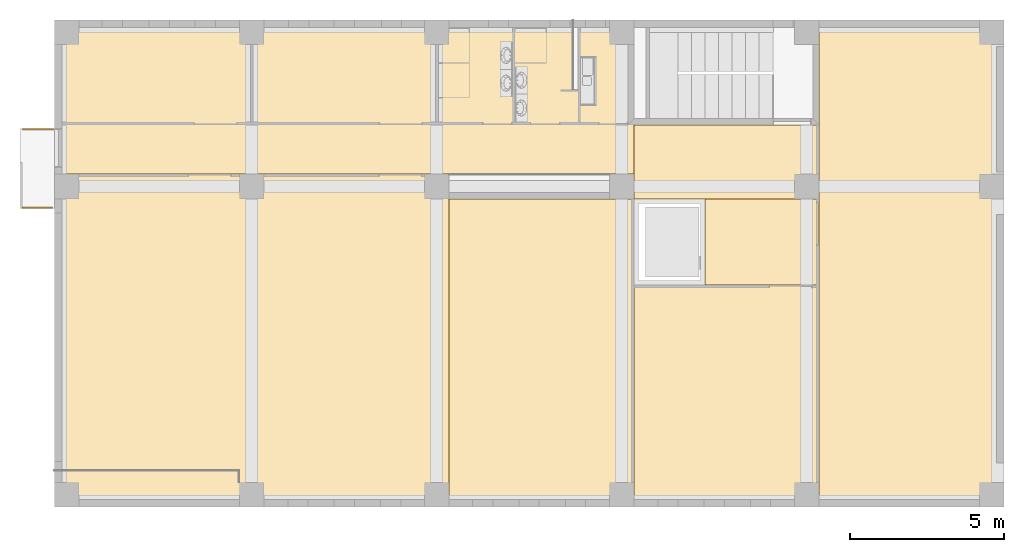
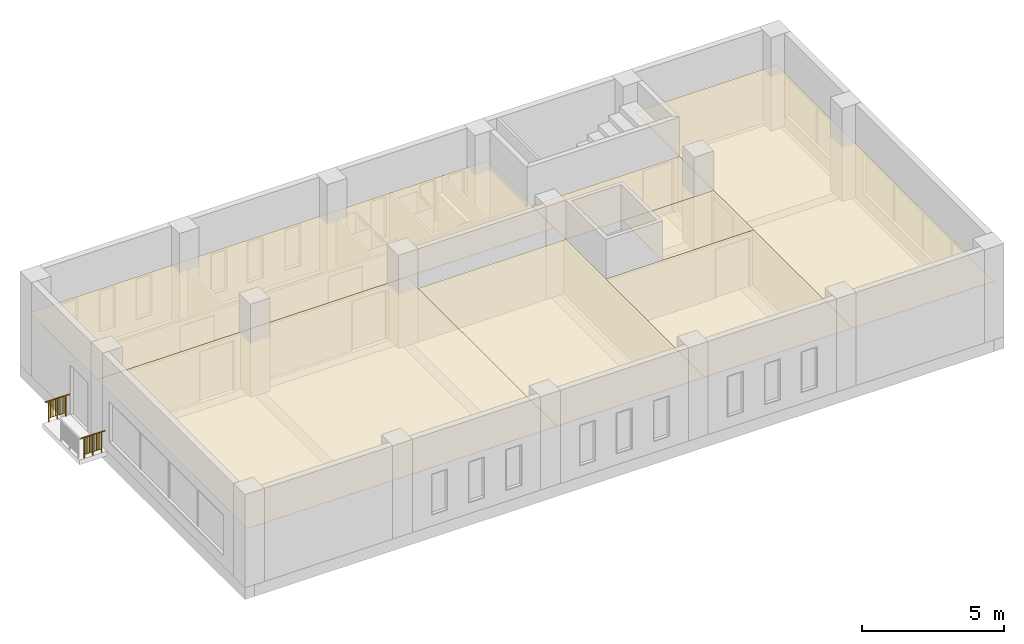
# One storey, part 6 of 14: 7 coverings, 2 railings.
"""IFC2X3 building model written with IfcOpenShell, lengths in millimetres."""

from ifc_helpers import new_model, entity, si_unit, converted_unit, direction, frame, origin_with_axes, place, context, project, spatial, polyline, outline, extrude, faceted_brep, source, transform, mapped, material, element, save


model = new_model("IFC2X3")

# Units and contexts
model_context = context("Model", 3, precision=1e-05, world=origin_with_axes(), true_north=direction((0.0, 1.0)))
ifc_project = project(units=[si_unit("LENGTHUNIT", "METRE", prefix="MILLI"), si_unit("AREAUNIT", "SQUARE_METRE"), si_unit("VOLUMEUNIT", "CUBIC_METRE"), converted_unit("PLANEANGLEUNIT", "DEGREE", entity("IfcPlaneAngleMeasure", 0.017453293), si_unit("PLANEANGLEUNIT", "RADIAN"), dimensions=[0, 0, 0, 0, 0, 0, 0]), si_unit("SOLIDANGLEUNIT", "STERADIAN"), si_unit("MASSUNIT", "GRAM"), si_unit("TIMEUNIT", "SECOND"), si_unit("THERMODYNAMICTEMPERATUREUNIT", "DEGREE_CELSIUS"), si_unit("LUMINOUSINTENSITYUNIT", "LUMEN")], contexts=[model_context])

# Site, building, storey
site_placement = place(None, origin_with_axes())
site = spatial("IfcSite", under=ifc_project, at=site_placement, Name="\x83T\x83C\x83g", CompositionType="ELEMENT")
building_placement = place(site_placement, origin_with_axes())
building = spatial("IfcBuilding", under=site, at=building_placement, Name="Daitec-Sample 201208", CompositionType="ELEMENT")
storey_placement = place(building_placement, frame((0.0, 0.0, 8000.0), z_axis=(0.0, 0.0, 1.0), x_axis=(1.0, 0.0, 0.0)))
storey = spatial("IfcBuildingStorey", under=building, at=storey_placement, Name="3F", CompositionType="ELEMENT", Elevation=8000.0)

# Railings
ifc_material_1 = material(Name="\x94w\x8ci")
shared_shape = source(origin_with_axes(), model_context, "Body", "Brep", [
    faceted_brep([(0.0, 25.0, 875.0), (0.0, -25.0, 875.0), (0.0, -25.0, 900.0), (0.0, 25.0, 900.0), (1000.0, 25.0, 875.0), (1000.0, -25.0, 875.0), (1000.0, -25.0, 900.0), (1000.0, 25.0, 900.0)], [[[0, 1, 2, 3]], [[0, 4, 5, 1]], [[1, 5, 6, 2]], [[3, 2, 6, 7]], [[4, 0, 3, 7]], [[5, 4, 7, 6]]]),
    faceted_brep([(132.5, -17.5, 0.0), (167.5, -17.5, 0.0), (167.5, -17.5, 875.0), (132.5, -17.5, 875.0), (132.5, 17.5, 0.0), (167.5, 17.5, 0.0), (167.5, 17.5, 875.0), (132.5, 17.5, 875.0)], [[[0, 1, 2, 3]], [[0, 4, 5, 1]], [[1, 5, 6, 2]], [[3, 2, 6, 7]], [[4, 0, 3, 7]], [[5, 4, 7, 6]]]),
    faceted_brep([(482.5, -17.5, 0.0), (517.5, -17.5, 0.0), (517.5, -17.5, 875.0), (482.5, -17.5, 875.0), (482.5, 17.5, 0.0), (517.5, 17.5, 0.0), (517.5, 17.5, 875.0), (482.5, 17.5, 875.0)], [[[0, 1, 2, 3]], [[0, 4, 5, 1]], [[1, 5, 6, 2]], [[3, 2, 6, 7]], [[4, 0, 3, 7]], [[5, 4, 7, 6]]]),
    faceted_brep([(832.5, -17.5, 0.0), (867.5, -17.5, 0.0), (867.5, -17.5, 875.0), (832.5, -17.5, 875.0), (832.5, 17.5, 0.0), (867.5, 17.5, 0.0), (867.5, 17.5, 875.0), (832.5, 17.5, 875.0)], [[[0, 1, 2, 3]], [[0, 4, 5, 1]], [[1, 5, 6, 2]], [[3, 2, 6, 7]], [[4, 0, 3, 7]], [[5, 4, 7, 6]]]),
    faceted_brep([(482.5, -10.0, 170.0), (482.5, 10.0, 170.0), (167.5, 10.0, 170.0), (167.5, -10.0, 170.0), (482.5, 10.0, 150.0), (482.5, -10.0, 150.0), (167.5, 10.0, 150.0), (167.5, -10.0, 150.0)], [[[0, 1, 2, 3]], [[4, 1, 0, 5]], [[1, 4, 6, 2]], [[7, 3, 2, 6]], [[5, 0, 3, 7]], [[4, 5, 7, 6]]]),
    faceted_brep([(832.5, -10.0, 170.0), (832.5, 10.0, 170.0), (517.5, 10.0, 170.0), (517.5, -10.0, 170.0), (832.5, 10.0, 150.0), (832.5, -10.0, 150.0), (517.5, 10.0, 150.0), (517.5, -10.0, 150.0)], [[[0, 1, 2, 3]], [[4, 1, 0, 5]], [[1, 4, 6, 2]], [[7, 3, 2, 6]], [[5, 0, 3, 7]], [[4, 5, 7, 6]]]),
    faceted_brep([(214.5, -10.0, 170.0), (234.5, -10.0, 170.0), (234.5, -10.0, 875.0), (214.5, -10.0, 875.0), (214.5, 10.0, 170.0), (234.5, 10.0, 170.0), (234.5, 10.0, 875.0), (214.5, 10.0, 875.0)], [[[0, 1, 2, 3]], [[0, 4, 5, 1]], [[1, 5, 6, 2]], [[3, 2, 6, 7]], [[4, 0, 3, 7]], [[5, 4, 7, 6]]]),
    faceted_brep([(281.5, -10.0, 170.0), (301.5, -10.0, 170.0), (301.5, -10.0, 875.0), (281.5, -10.0, 875.0), (281.5, 10.0, 170.0), (301.5, 10.0, 170.0), (301.5, 10.0, 875.0), (281.5, 10.0, 875.0)], [[[0, 1, 2, 3]], [[0, 4, 5, 1]], [[1, 5, 6, 2]], [[3, 2, 6, 7]], [[4, 0, 3, 7]], [[5, 4, 7, 6]]]),
    faceted_brep([(348.5, -10.0, 170.0), (368.5, -10.0, 170.0), (368.5, -10.0, 875.0), (348.5, -10.0, 875.0), (348.5, 10.0, 170.0), (368.5, 10.0, 170.0), (368.5, 10.0, 875.0), (348.5, 10.0, 875.0)], [[[0, 1, 2, 3]], [[0, 4, 5, 1]], [[1, 5, 6, 2]], [[3, 2, 6, 7]], [[4, 0, 3, 7]], [[5, 4, 7, 6]]]),
    faceted_brep([(415.5, -10.0, 170.0), (435.5, -10.0, 170.0), (435.5, -10.0, 875.0), (415.5, -10.0, 875.0), (415.5, 10.0, 170.0), (435.5, 10.0, 170.0), (435.5, 10.0, 875.0), (415.5, 10.0, 875.0)], [[[0, 1, 2, 3]], [[0, 4, 5, 1]], [[1, 5, 6, 2]], [[3, 2, 6, 7]], [[4, 0, 3, 7]], [[5, 4, 7, 6]]]),
    faceted_brep([(564.5, -10.0, 170.0), (584.5, -10.0, 170.0), (584.5, -10.0, 875.0), (564.5, -10.0, 875.0), (564.5, 10.0, 170.0), (584.5, 10.0, 170.0), (584.5, 10.0, 875.0), (564.5, 10.0, 875.0)], [[[0, 1, 2, 3]], [[0, 4, 5, 1]], [[1, 5, 6, 2]], [[3, 2, 6, 7]], [[4, 0, 3, 7]], [[5, 4, 7, 6]]]),
    faceted_brep([(631.5, -10.0, 170.0), (651.5, -10.0, 170.0), (651.5, -10.0, 875.0), (631.5, -10.0, 875.0), (631.5, 10.0, 170.0), (651.5, 10.0, 170.0), (651.5, 10.0, 875.0), (631.5, 10.0, 875.0)], [[[0, 1, 2, 3]], [[0, 4, 5, 1]], [[1, 5, 6, 2]], [[3, 2, 6, 7]], [[4, 0, 3, 7]], [[5, 4, 7, 6]]]),
    faceted_brep([(698.5, -10.0, 170.0), (718.5, -10.0, 170.0), (718.5, -10.0, 875.0), (698.5, -10.0, 875.0), (698.5, 10.0, 170.0), (718.5, 10.0, 170.0), (718.5, 10.0, 875.0), (698.5, 10.0, 875.0)], [[[0, 1, 2, 3]], [[0, 4, 5, 1]], [[1, 5, 6, 2]], [[3, 2, 6, 7]], [[4, 0, 3, 7]], [[5, 4, 7, 6]]]),
    faceted_brep([(765.5, -10.0, 170.0), (785.5, -10.0, 170.0), (785.5, -10.0, 875.0), (765.5, -10.0, 875.0), (765.5, 10.0, 170.0), (785.5, 10.0, 170.0), (785.5, 10.0, 875.0), (765.5, 10.0, 875.0)], [[[0, 1, 2, 3]], [[0, 4, 5, 1]], [[1, 5, 6, 2]], [[3, 2, 6, 7]], [[4, 0, 3, 7]], [[5, 4, 7, 6]]]),
])
for number, where, z_axis, x_axis, name in (
    (1, (6066.1794, 20261.356, 0.0), (0.0, 0.0, 1.0), (-1.0, 0.0, 0.0), "O9"),
    (2, (6040.7362, 17709.787, 0.0), (0.0, 0.0, 1.0), (-1.0, 0.0, 0.0), "O8"),
):
    element("IfcRailing", number, at=place(storey_placement, frame(where, z_axis=z_axis, x_axis=x_axis)), inside=storey, material=ifc_material_1, Name=name, PredefinedType="NOTDEFINED", context=model_context, shape_type="MappedRepresentation", body=[
        mapped(shared_shape, transform((0.0, 0.0, 0.0))),
    ])

# Coverings
ifc_material_2 = material(Name="\x93V\x88ä1")
covering_1_placement = place(storey_placement, frame((24900.0, 8250.0, 2300.0), z_axis=(0.0, 0.0, 1.0), x_axis=(1.0, 0.0, 0.0)))
element("IfcCovering", 3, at=covering_1_placement, inside=storey, material=ifc_material_2, Name="S2", PredefinedType="CEILING", context=model_context, shape_type="SweptSolid", body=[
    extrude(outline(polyline([(0.0, 0.0), (6000.0, 0.0), (6000.0, 6950.0), (0.0, 6950.0), (0.0, 0.0)])), origin_with_axes(), (0.0, 0.0, 1.0), 10.0),
])
covering_2_placement = place(storey_placement, frame((30900.0, 23550.0, 2300.0), z_axis=(0.0, 0.0, 1.0), x_axis=(1.0, 0.0, 0.0)))
element("IfcCovering", 4, at=covering_2_placement, inside=storey, material=ifc_material_2, Name="S5", PredefinedType="CEILING", context=model_context, shape_type="SweptSolid", body=[
    extrude(outline(polyline([(0.0, 0.0), (0.0, -15300.0), (5750.0, -15300.0), (5750.0, 0.0), (0.0, 0.0)])), origin_with_axes(), (0.0, 0.0, 1.0), 10.0),
])
covering_3_placement = place(storey_placement, frame((24900.0, 18000.0, 2300.0), z_axis=(0.0, 0.0, 1.0), x_axis=(1.0, 0.0, 0.0)))
element("IfcCovering", 5, at=covering_3_placement, inside=storey, material=ifc_material_2, Name="S3", PredefinedType="CEILING", context=model_context, shape_type="SweptSolid", body=[
    extrude(outline(polyline([(0.0, 0.0), (6000.0, 0.0), (6000.0, 2399.9089), (0.0, 2399.9089), (0.0, 0.0)])), origin_with_axes(), (0.0, 0.0, 1.0), 10.0),
])
covering_4_placement = place(storey_placement, frame((30900.0, 18000.0, 2300.0), z_axis=(0.0, 0.0, 1.0), x_axis=(1.0, 0.0, 0.0)))
element("IfcCovering", 6, at=covering_4_placement, inside=storey, material=ifc_material_2, Name="S4", PredefinedType="CEILING", context=model_context, shape_type="SweptSolid", body=[
    extrude(outline(polyline([(0.0, 0.0), (-3700.0, 0.0), (-3700.0, -2800.0), (0.0, -2800.0), (0.0, 0.0)])), origin_with_axes(), (0.0, 0.0, 1.0), 10.0),
])
covering_5_placement = place(storey_placement, frame((6350.0, 23550.0, 2300.0), z_axis=(0.0, 0.0, 1.0), x_axis=(1.0, 0.0, 0.0)))
element("IfcCovering", 7, at=covering_5_placement, inside=storey, material=ifc_material_2, Name="S9", PredefinedType="CEILING", context=model_context, shape_type="SweptSolid", body=[
    extrude(outline(polyline([(0.0, 0.0), (0.0, -4750.0), (18550.0, -4750.0), (18550.0, 0.0), (0.0, 0.0)])), origin_with_axes(), (0.0, 0.0, 1.0), 10.0),
])
covering_6_placement = place(storey_placement, frame((18900.0, 8250.0, 2300.0), z_axis=(0.0, 0.0, 1.0), x_axis=(1.0, 0.0, 0.0)))
element("IfcCovering", 8, at=covering_6_placement, inside=storey, material=ifc_material_2, Name="S1", PredefinedType="CEILING", context=model_context, shape_type="SweptSolid", body=[
    extrude(outline(polyline([(0.0, 0.0), (6000.0, 0.0), (6000.0, 9750.0), (0.0, 9750.0), (0.0, 0.0)])), origin_with_axes(), (0.0, 0.0, 1.0), 10.0),
])
covering_7_placement = place(storey_placement, frame((6350.0, 18800.0, 2300.0), z_axis=(0.0, 0.0, 1.0), x_axis=(1.0, 0.0, 0.0)))
element("IfcCovering", 9, at=covering_7_placement, inside=storey, material=ifc_material_2, Name="S0", PredefinedType="CEILING", context=model_context, shape_type="SweptSolid", body=[
    extrude(outline(polyline([(0.0, 0.0), (0.0, -10550.0), (12550.0, -10550.0), (12550.0, 0.0), (0.0, 0.0)])), origin_with_axes(), (0.0, 0.0, 1.0), 10.0),
])

save(model, "model.ifc")
